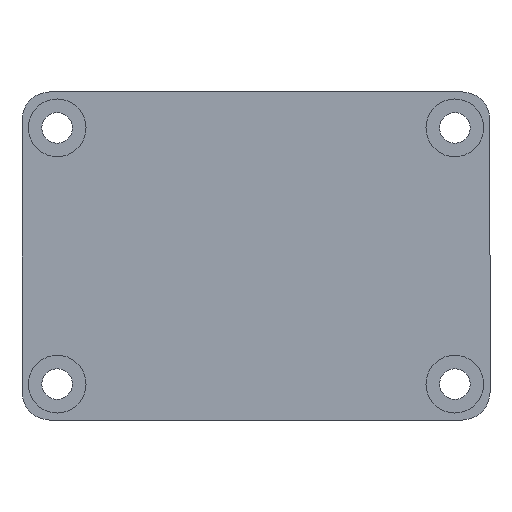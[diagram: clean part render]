
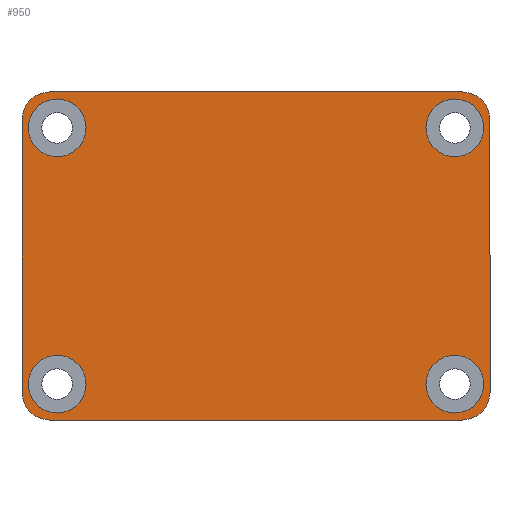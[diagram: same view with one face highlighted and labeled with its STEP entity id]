
A CAD part, front view. The second image highlights one B-rep face of the part: STEP entity #950.
In plain terms, the highlighted planar face has unit normal (0, -1, 0).
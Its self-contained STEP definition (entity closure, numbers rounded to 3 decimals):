
#10 = VECTOR ( 'NONE', #284, 1000. ) ;
#39 = CIRCLE ( 'NONE', #63, 2. ) ;
#49 = ORIENTED_EDGE ( 'NONE', *, *, #773, .F. ) ;
#53 = DIRECTION ( 'NONE',  ( 0., 0., -1. ) ) ;
#61 = DIRECTION ( 'NONE',  ( 0., 1., 0. ) ) ;
#62 = LINE ( 'NONE', #1252, #10 ) ;
#63 = AXIS2_PLACEMENT_3D ( 'NONE', #755, #1402, #1259 ) ;
#90 = DIRECTION ( 'NONE',  ( 0., 0., 1. ) ) ;
#118 = CARTESIAN_POINT ( 'NONE',  ( -14.8, 0., -9.775 ) ) ;
#136 = CIRCLE ( 'NONE', #1258, 2.075 ) ;
#142 = EDGE_LOOP ( 'NONE', ( #1274, #876, #375, #685, #49, #734, #781, #1574 ) ) ;
#165 = EDGE_CURVE ( 'NONE', #1025, #1551, #136, .T. ) ;
#178 = EDGE_CURVE ( 'NONE', #1340, #1702, #1217, .T. ) ;
#198 = DIRECTION ( 'NONE',  ( 0., 0., 1. ) ) ;
#226 = LINE ( 'NONE', #854, #505 ) ;
#234 = DIRECTION ( 'NONE',  ( 0., 0., -1. ) ) ;
#235 = EDGE_LOOP ( 'NONE', ( #1266, #750 ) ) ;
#241 = LINE ( 'NONE', #244, #1663 ) ;
#244 = CARTESIAN_POINT ( 'NONE',  ( -16.8, 0., -9.775 ) ) ;
#258 = VERTEX_POINT ( 'NONE', #1271 ) ;
#265 = EDGE_CURVE ( 'NONE', #609, #1247, #1375, .T. ) ;
#270 = CARTESIAN_POINT ( 'NONE',  ( -14.275, 0., -7.125 ) ) ;
#274 = EDGE_LOOP ( 'NONE', ( #382, #1087 ) ) ;
#278 = FACE_OUTER_BOUND ( 'NONE', #142, .T. ) ;
#279 = VERTEX_POINT ( 'NONE', #1136 ) ;
#284 = DIRECTION ( 'NONE',  ( 1., 0., 0. ) ) ;
#314 = CARTESIAN_POINT ( 'NONE',  ( 14.8, 0., -9.775 ) ) ;
#320 = EDGE_CURVE ( 'NONE', #1247, #609, #551, .T. ) ;
#329 = EDGE_CURVE ( 'NONE', #1318, #1626, #1649, .T. ) ;
#341 = PLANE ( 'NONE',  #387 ) ;
#369 = CIRCLE ( 'NONE', #1721, 2. ) ;
#375 = ORIENTED_EDGE ( 'NONE', *, *, #898, .F. ) ;
#382 = ORIENTED_EDGE ( 'NONE', *, *, #165, .F. ) ;
#384 = EDGE_CURVE ( 'NONE', #1702, #1340, #472, .T. ) ;
#387 = AXIS2_PLACEMENT_3D ( 'NONE', #475, #985, #53 ) ;
#415 = AXIS2_PLACEMENT_3D ( 'NONE', #118, #1331, #906 ) ;
#422 = VERTEX_POINT ( 'NONE', #1290 ) ;
#459 = AXIS2_PLACEMENT_3D ( 'NONE', #314, #61, #198 ) ;
#471 = CIRCLE ( 'NONE', #1762, 2.075 ) ;
#472 = CIRCLE ( 'NONE', #1470, 2.075 ) ;
#475 = CARTESIAN_POINT ( 'NONE',  ( -14.8, 0., 9.775 ) ) ;
#496 = VERTEX_POINT ( 'NONE', #1011 ) ;
#497 = ORIENTED_EDGE ( 'NONE', *, *, #265, .F. ) ;
#505 = VECTOR ( 'NONE', #1709, 1000. ) ;
#525 = DIRECTION ( 'NONE',  ( 0., -1., 0. ) ) ;
#549 = CARTESIAN_POINT ( 'NONE',  ( -14.275, 0., 11.275 ) ) ;
#551 = CIRCLE ( 'NONE', #1550, 2.075 ) ;
#553 = AXIS2_PLACEMENT_3D ( 'NONE', #1018, #1007, #1028 ) ;
#561 = CARTESIAN_POINT ( 'NONE',  ( 14.8, 0., -11.775 ) ) ;
#582 = DIRECTION ( 'NONE',  ( 0., 0., -1. ) ) ;
#585 = DIRECTION ( 'NONE',  ( 0., 1., 0. ) ) ;
#592 = CARTESIAN_POINT ( 'NONE',  ( 14.8, 0., 9.775 ) ) ;
#595 = EDGE_CURVE ( 'NONE', #496, #422, #369, .T. ) ;
#608 = FACE_BOUND ( 'NONE', #1743, .T. ) ;
#609 = VERTEX_POINT ( 'NONE', #549 ) ;
#628 = VERTEX_POINT ( 'NONE', #561 ) ;
#650 = LINE ( 'NONE', #1309, #1387 ) ;
#651 = CARTESIAN_POINT ( 'NONE',  ( 14.275, 0., -7.125 ) ) ;
#671 = CARTESIAN_POINT ( 'NONE',  ( -14.275, 0., 7.125 ) ) ;
#680 = DIRECTION ( 'NONE',  ( 0., 0., -1. ) ) ;
#685 = ORIENTED_EDGE ( 'NONE', *, *, #837, .F. ) ;
#695 = ORIENTED_EDGE ( 'NONE', *, *, #320, .F. ) ;
#705 = DIRECTION ( 'NONE',  ( 0., -1., 0. ) ) ;
#711 = EDGE_CURVE ( 'NONE', #422, #1250, #226, .T. ) ;
#714 = CARTESIAN_POINT ( 'NONE',  ( 14.275, 0., -9.2 ) ) ;
#716 = DIRECTION ( 'NONE',  ( 0., -1., 0. ) ) ;
#734 = ORIENTED_EDGE ( 'NONE', *, *, #711, .F. ) ;
#749 = DIRECTION ( 'NONE',  ( 0., 0., -1. ) ) ;
#750 = ORIENTED_EDGE ( 'NONE', *, *, #178, .F. ) ;
#755 = CARTESIAN_POINT ( 'NONE',  ( -14.8, 0., 9.775 ) ) ;
#773 = EDGE_CURVE ( 'NONE', #1250, #628, #1190, .T. ) ;
#781 = ORIENTED_EDGE ( 'NONE', *, *, #595, .F. ) ;
#807 = CIRCLE ( 'NONE', #553, 2.075 ) ;
#815 = CARTESIAN_POINT ( 'NONE',  ( -14.275, 0., 9.2 ) ) ;
#826 = EDGE_CURVE ( 'NONE', #258, #496, #62, .T. ) ;
#837 = EDGE_CURVE ( 'NONE', #628, #1575, #650, .T. ) ;
#854 = CARTESIAN_POINT ( 'NONE',  ( 16.8, 0., -9.775 ) ) ;
#871 = ORIENTED_EDGE ( 'NONE', *, *, #329, .F. ) ;
#876 = ORIENTED_EDGE ( 'NONE', *, *, #971, .F. ) ;
#898 = EDGE_CURVE ( 'NONE', #1575, #279, #1308, .T. ) ;
#906 = DIRECTION ( 'NONE',  ( 0., 0., 1. ) ) ;
#911 = ORIENTED_EDGE ( 'NONE', *, *, #1498, .F. ) ;
#921 = VERTEX_POINT ( 'NONE', #1353 ) ;
#950 = ADVANCED_FACE ( 'NONE', ( #1385, #608, #1753, #997, #278 ), #341, .T. ) ;
#960 = DIRECTION ( 'NONE',  ( 0., 0., -1. ) ) ;
#967 = CARTESIAN_POINT ( 'NONE',  ( 16.8, 0., -9.775 ) ) ;
#971 = EDGE_CURVE ( 'NONE', #279, #921, #241, .T. ) ;
#985 = DIRECTION ( 'NONE',  ( 0., -1., 0. ) ) ;
#990 = DIRECTION ( 'NONE',  ( 0., -1., 0. ) ) ;
#997 = FACE_BOUND ( 'NONE', #1657, .T. ) ;
#1006 = AXIS2_PLACEMENT_3D ( 'NONE', #1264, #1246, #1253 ) ;
#1007 = DIRECTION ( 'NONE',  ( 0., -1., 0. ) ) ;
#1011 = CARTESIAN_POINT ( 'NONE',  ( 14.8, 0., 11.775 ) ) ;
#1018 = CARTESIAN_POINT ( 'NONE',  ( 14.275, 0., 9.2 ) ) ;
#1025 = VERTEX_POINT ( 'NONE', #1763 ) ;
#1028 = DIRECTION ( 'NONE',  ( 0., 0., -1. ) ) ;
#1036 = CARTESIAN_POINT ( 'NONE',  ( -14.275, 0., 9.2 ) ) ;
#1087 = ORIENTED_EDGE ( 'NONE', *, *, #1758, .F. ) ;
#1136 = CARTESIAN_POINT ( 'NONE',  ( -16.8, 0., -9.775 ) ) ;
#1176 = CARTESIAN_POINT ( 'NONE',  ( -14.275, 0., -11.275 ) ) ;
#1190 = CIRCLE ( 'NONE', #459, 2. ) ;
#1217 = CIRCLE ( 'NONE', #1006, 2.075 ) ;
#1246 = DIRECTION ( 'NONE',  ( 0., -1., 0. ) ) ;
#1247 = VERTEX_POINT ( 'NONE', #671 ) ;
#1250 = VERTEX_POINT ( 'NONE', #967 ) ;
#1252 = CARTESIAN_POINT ( 'NONE',  ( -14.8, 0., 11.775 ) ) ;
#1253 = DIRECTION ( 'NONE',  ( 0., 0., -1. ) ) ;
#1258 = AXIS2_PLACEMENT_3D ( 'NONE', #1346, #1354, #1364 ) ;
#1259 = DIRECTION ( 'NONE',  ( 0., 0., -1. ) ) ;
#1264 = CARTESIAN_POINT ( 'NONE',  ( -14.275, 0., -9.2 ) ) ;
#1266 = ORIENTED_EDGE ( 'NONE', *, *, #384, .F. ) ;
#1271 = CARTESIAN_POINT ( 'NONE',  ( -14.8, 0., 11.775 ) ) ;
#1274 = ORIENTED_EDGE ( 'NONE', *, *, #1388, .F. ) ;
#1290 = CARTESIAN_POINT ( 'NONE',  ( 16.8, 0., 9.775 ) ) ;
#1308 = CIRCLE ( 'NONE', #415, 2. ) ;
#1309 = CARTESIAN_POINT ( 'NONE',  ( -14.8, 0., -11.775 ) ) ;
#1318 = VERTEX_POINT ( 'NONE', #651 ) ;
#1331 = DIRECTION ( 'NONE',  ( 0., 1., 0. ) ) ;
#1340 = VERTEX_POINT ( 'NONE', #270 ) ;
#1346 = CARTESIAN_POINT ( 'NONE',  ( 14.275, 0., 9.2 ) ) ;
#1353 = CARTESIAN_POINT ( 'NONE',  ( -16.8, 0., 9.775 ) ) ;
#1354 = DIRECTION ( 'NONE',  ( 0., -1., 0. ) ) ;
#1364 = DIRECTION ( 'NONE',  ( 0., 0., -1. ) ) ;
#1375 = CIRCLE ( 'NONE', #1568, 2.075 ) ;
#1385 = FACE_BOUND ( 'NONE', #235, .T. ) ;
#1387 = VECTOR ( 'NONE', #1587, 1000. ) ;
#1388 = EDGE_CURVE ( 'NONE', #921, #258, #39, .T. ) ;
#1394 = CARTESIAN_POINT ( 'NONE',  ( 14.275, 0., -9.2 ) ) ;
#1402 = DIRECTION ( 'NONE',  ( 0., 1., 0. ) ) ;
#1427 = CARTESIAN_POINT ( 'NONE',  ( 14.275, 0., -11.275 ) ) ;
#1449 = DIRECTION ( 'NONE',  ( 0., 0., -1. ) ) ;
#1470 = AXIS2_PLACEMENT_3D ( 'NONE', #1539, #1533, #1449 ) ;
#1498 = EDGE_CURVE ( 'NONE', #1626, #1318, #471, .T. ) ;
#1533 = DIRECTION ( 'NONE',  ( 0., -1., 0. ) ) ;
#1539 = CARTESIAN_POINT ( 'NONE',  ( -14.275, 0., -9.2 ) ) ;
#1545 = AXIS2_PLACEMENT_3D ( 'NONE', #714, #705, #680 ) ;
#1550 = AXIS2_PLACEMENT_3D ( 'NONE', #815, #716, #749 ) ;
#1551 = VERTEX_POINT ( 'NONE', #1631 ) ;
#1568 = AXIS2_PLACEMENT_3D ( 'NONE', #1036, #990, #960 ) ;
#1574 = ORIENTED_EDGE ( 'NONE', *, *, #826, .F. ) ;
#1575 = VERTEX_POINT ( 'NONE', #1714 ) ;
#1587 = DIRECTION ( 'NONE',  ( -1., 0., 0. ) ) ;
#1626 = VERTEX_POINT ( 'NONE', #1427 ) ;
#1631 = CARTESIAN_POINT ( 'NONE',  ( 14.275, 0., 11.275 ) ) ;
#1649 = CIRCLE ( 'NONE', #1545, 2.075 ) ;
#1657 = EDGE_LOOP ( 'NONE', ( #695, #497 ) ) ;
#1663 = VECTOR ( 'NONE', #90, 1000. ) ;
#1702 = VERTEX_POINT ( 'NONE', #1176 ) ;
#1709 = DIRECTION ( 'NONE',  ( 0., 0., -1. ) ) ;
#1714 = CARTESIAN_POINT ( 'NONE',  ( -14.8, 0., -11.775 ) ) ;
#1721 = AXIS2_PLACEMENT_3D ( 'NONE', #592, #585, #582 ) ;
#1743 = EDGE_LOOP ( 'NONE', ( #911, #871 ) ) ;
#1753 = FACE_BOUND ( 'NONE', #274, .T. ) ;
#1758 = EDGE_CURVE ( 'NONE', #1551, #1025, #807, .T. ) ;
#1762 = AXIS2_PLACEMENT_3D ( 'NONE', #1394, #525, #234 ) ;
#1763 = CARTESIAN_POINT ( 'NONE',  ( 14.275, 0., 7.125 ) ) ;
